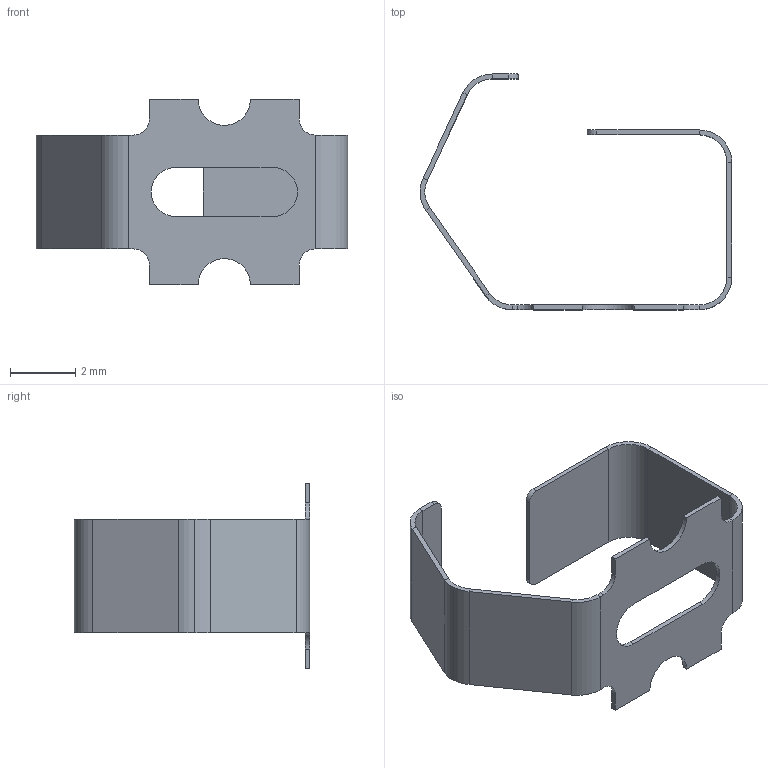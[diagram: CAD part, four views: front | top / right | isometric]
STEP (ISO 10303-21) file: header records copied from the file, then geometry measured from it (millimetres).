
FILE_DESCRIPTION(('STEP AP203'),'1');
FILE_NAME('s1941-46r.stp','2024-02-24T11:00:54',('TraceParts'),('TraceParts S.A.'),'Spatial InterOp 3D',' ',' ');
FILE_SCHEMA(('CONFIG_CONTROL_DESIGN'));
Length unit declared in the file: millimetre
Products named in the file (1): 1
Bounding box: 9.59 x 7.25 x 5.7 mm (x, y, z)
Volume: 13.7 mm3; surface area: 193.1 mm2
Topology: 1 solids, 1 shells, 70 faces, 164 edges, 96 vertices
Faces by surface type: plane 46, cylinder 24
Entity records: 2004 total; most frequent: DIRECTION 354, CARTESIAN_POINT 331, ORIENTED_EDGE 328, EDGE_CURVE 164, AXIS2_PLACEMENT_3D 119, LINE 116, VECTOR 116, VERTEX_POINT 96
